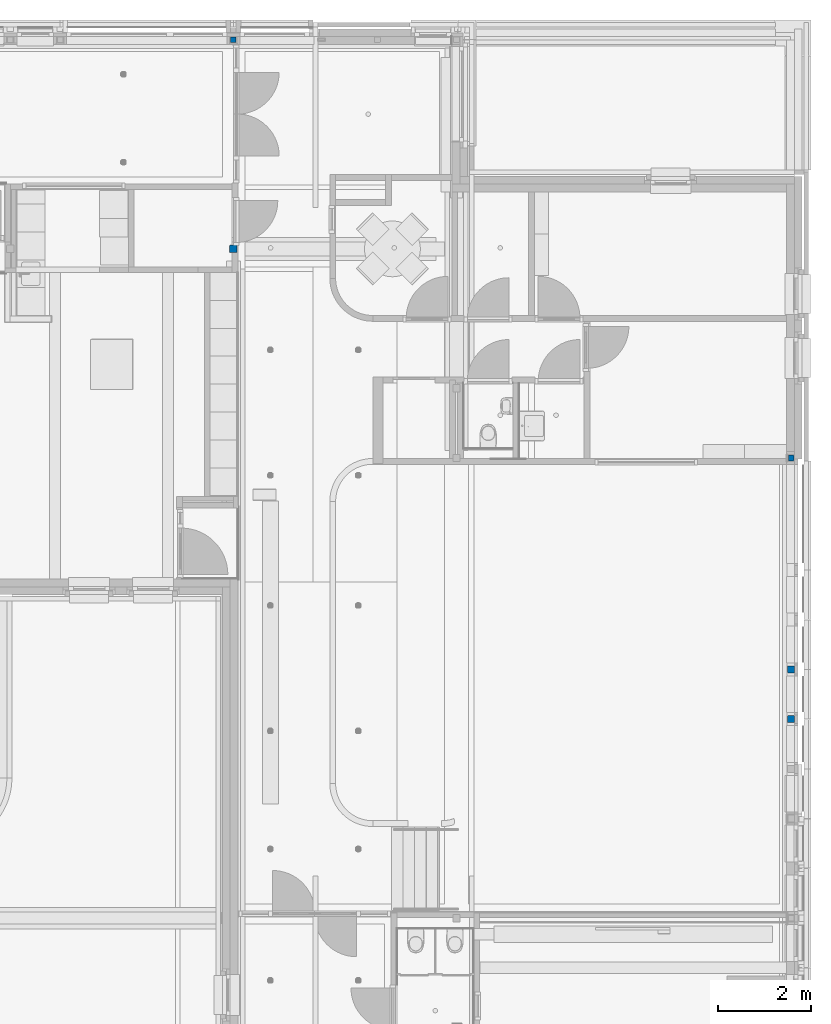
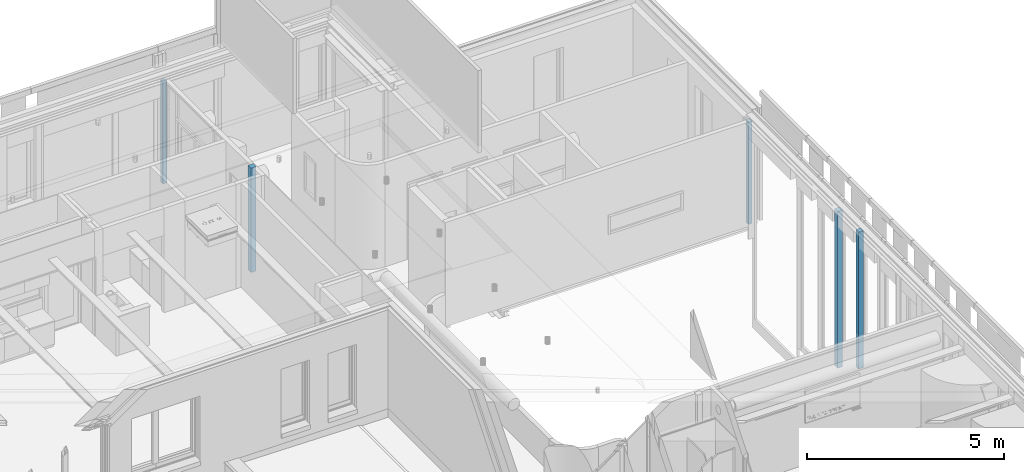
# One storey, part 4 of 128: 6 columns.
"""IFC2X3 building model written with IfcOpenShell, lengths in millimetres."""

import ifcopenshell
import ifcopenshell.guid

model = None  # the IFC model being written
_history = None  # IfcOwnerHistory: only IFC2X3 demands one
_inside = {}  # id of a spatial element -> (the spatial element, [elements in it])
_under = {}  # id of a project, library or spatial element -> (it, [spatial elements below it])
_declared = {}  # id of a project -> (the project, [libraries it declares])
_typed = {}  # id of a type object -> (the type object, [elements of that type])
_made_of = {}  # id of a material, layer set ... -> (it, [elements and type objects made of it])


def new_model(schema):
    """Start an empty IFC model of exactly this schema.

    Asked for "IFC4X3", IfcOpenShell would pick the latest addendum, in which some entities
    have other attributes; the version numbers below select the first issue.
    IFC2X3 requires an IfcOwnerHistory on every rooted entity: one is made here for all.
    """
    global model, _history
    if schema == "IFC4X3":
        model = ifcopenshell.file(schema_version=(4, 3, 0, 0))
    else:
        model = ifcopenshell.file(schema=schema)
    _inside.clear()
    _under.clear()
    _declared.clear()
    _typed.clear()
    _made_of.clear()
    _history = None
    if model.schema == "IFC2X3":
        org = make("IfcOrganization", Name="unknown")
        user = make(
            "IfcPersonAndOrganization",
            ThePerson=make("IfcPerson", FamilyName="unknown"),
            TheOrganization=org,
        )
        app = make(
            "IfcApplication",
            ApplicationDeveloper=org,
            Version="unknown",
            ApplicationFullName="unknown",
            ApplicationIdentifier="unknown",
        )
        _history = make(
            "IfcOwnerHistory",
            OwningUser=user,
            OwningApplication=app,
            ChangeAction="ADDED",
            CreationDate=0,
        )
    return model


def make(cls, **values):
    """One entity of the class cls with the attributes given. An attribute that is None is left unset."""
    return model.create_entity(
        cls, **{name: value for name, value in values.items() if value is not None}
    )


def entity(cls, *values):
    """Any entity or typed value of the class cls, its attributes in the order of the schema. None: left unset."""
    e = model.create_entity(cls)
    for i, value in enumerate(values):
        if value is not None:
            e[i] = value
    return e


def rooted(cls, **values):
    """An entity with a GlobalId (a new one), such as an element, a storey or a relation."""
    return make(cls, GlobalId=ifcopenshell.guid.new(), OwnerHistory=_history, **values)


def si_unit(unit_type, name, prefix=None):
    """IfcSIUnit, for example si_unit("LENGTHUNIT", "METRE", prefix="MILLI")."""
    return make("IfcSIUnit", UnitType=unit_type, Prefix=prefix, Name=name)


def converted_unit(unit_type, name, factor, base, dimensions=None, offset=None):
    """IfcConversionBasedUnit, such as the inch: factor (a typed value) times the base unit."""
    return make(
        "IfcConversionBasedUnit"
        if offset is None
        else "IfcConversionBasedUnitWithOffset",
        ConversionOffset=offset,
        Dimensions=None
        if dimensions is None
        else entity("IfcDimensionalExponents", *dimensions),
        UnitType=unit_type,
        Name=name,
        ConversionFactor=make(
            "IfcMeasureWithUnit", ValueComponent=factor, UnitComponent=base
        ),
    )


def derived_unit(unit_type, elements):
    """IfcDerivedUnit: a product of units, each with its exponent."""
    return make(
        "IfcDerivedUnit",
        Elements=[
            make("IfcDerivedUnitElement", Unit=unit, Exponent=power)
            for unit, power in elements
        ],
        UnitType=unit_type,
    )


def assignment(units):
    """IfcUnitAssignment: the units of a project."""
    return None if units is None else make("IfcUnitAssignment", Units=units)


def point(xyz):
    """IfcCartesianPoint."""
    return None if xyz is None else make("IfcCartesianPoint", Coordinates=xyz)


def direction(xyz):
    """IfcDirection."""
    return None if xyz is None else make("IfcDirection", DirectionRatios=xyz)


def frame(location, z_axis=None, x_axis=None):
    """IfcAxis2Placement3D, a coordinate frame: its origin and axes. An axis left out is left unset."""
    return make(
        "IfcAxis2Placement3D",
        Location=point(location),
        Axis=direction(z_axis),
        RefDirection=direction(x_axis),
    )


def frame_2d(location, x_axis=None):
    """IfcAxis2Placement2D, a coordinate frame in the plane: its origin and x axis."""
    return make(
        "IfcAxis2Placement2D", Location=point(location), RefDirection=direction(x_axis)
    )


def origin():
    """The frame at (0, 0, 0) with its axes left unset."""
    return frame((0.0, 0.0, 0.0))


def place(relative_to, where):
    """IfcLocalPlacement: puts the frame where relative to a parent placement (None: the world)."""
    return make(
        "IfcLocalPlacement", PlacementRelTo=relative_to, RelativePlacement=where
    )


def context(
    kind, dimensions, precision=None, world=None, true_north=None, identifier=None
):
    """IfcGeometricRepresentationContext, for example the 3D "Model" context."""
    return make(
        "IfcGeometricRepresentationContext",
        ContextIdentifier=identifier,
        ContextType=kind,
        CoordinateSpaceDimension=dimensions,
        Precision=precision,
        WorldCoordinateSystem=world,
        TrueNorth=true_north,
    )


def subcontext(parent, identifier, kind, view, scale=None):
    """IfcGeometricRepresentationSubContext, for example "Body" below "Model"."""
    return make(
        "IfcGeometricRepresentationSubContext",
        ContextIdentifier=identifier,
        ContextType=kind,
        ParentContext=parent,
        TargetScale=scale,
        TargetView=view,
    )


def project(units=None, contexts=None):
    """IfcProject with its units and contexts."""
    return rooted(
        "IfcProject",
        Name="project",
        RepresentationContexts=contexts,
        UnitsInContext=assignment(units),
    )


def spatial(cls, under=None, at=None, **own):
    """A site, building, storey or space (cls), placed at a placement, below another one or the project."""
    s = rooted(cls, ObjectPlacement=at, **own)
    if under is not None:
        _under.setdefault(under.id(), (under, []))[1].append(s)
    return s


def polyline(points):
    """IfcPolyline through the points."""
    return make("IfcPolyline", Points=[point(p) for p in points])


def circle_curve(where, radius):
    """IfcCircle in the frame where."""
    return make("IfcCircle", Position=where, Radius=radius)


def parameter(value):
    """IfcParameterValue: where a trimmed curve begins or ends, as a parameter of its basis curve."""
    return model.create_entity("IfcParameterValue", value)


def trimmed(basis, trim1, trim2, sense, master):
    """IfcTrimmedCurve: the piece of a basis curve between two trims."""
    return make(
        "IfcTrimmedCurve",
        BasisCurve=basis,
        Trim1=trim1,
        Trim2=trim2,
        SenseAgreement=sense,
        MasterRepresentation=master,
    )


def segment(curve, same_sense, transition):
    """IfcCompositeCurveSegment."""
    return make(
        "IfcCompositeCurveSegment",
        Transition=transition,
        SameSense=same_sense,
        ParentCurve=curve,
    )


def composite_curve(segments, self_intersect=None):
    """IfcCompositeCurve: segments joined end to end."""
    return make("IfcCompositeCurve", Segments=segments, SelfIntersect=self_intersect)


def outline(outer, holes=None, kind="AREA"):
    """IfcArbitraryClosedProfileDef: a profile drawn as a closed curve; with holes, ...WithVoids."""
    if holes is None:
        return make("IfcArbitraryClosedProfileDef", ProfileType=kind, OuterCurve=outer)
    return make(
        "IfcArbitraryProfileDefWithVoids",
        ProfileType=kind,
        OuterCurve=outer,
        InnerCurves=holes,
    )


def extrude(swept, where, along, depth):
    """IfcExtrudedAreaSolid: the profile swept, set in the frame where, extruded along a direction by depth."""
    return make(
        "IfcExtrudedAreaSolid",
        SweptArea=swept,
        Position=where,
        ExtrudedDirection=direction(along),
        Depth=depth,
    )


def shape(context_of_items, identifier, shape_type, items):
    """IfcShapeRepresentation: the items that make up one representation, for example the "Body"."""
    return make(
        "IfcShapeRepresentation",
        ContextOfItems=context_of_items,
        RepresentationIdentifier=identifier,
        RepresentationType=shape_type,
        Items=items,
    )


def source(mapping_origin, context_of_items, identifier, shape_type, items):
    """IfcRepresentationMap: a shape defined once, which mapped items show again and again."""
    return make(
        "IfcRepresentationMap",
        MappingOrigin=mapping_origin,
        MappedRepresentation=shape(context_of_items, identifier, shape_type, items),
    )


def transform(
    local_origin,
    x_axis=None,
    y_axis=None,
    z_axis=None,
    scale=None,
    scale2=None,
    scale3=None,
    uniform=True,
):
    """IfcCartesianTransformationOperator3D, or its non-uniform kind. x_axis, y_axis, z_axis: its Axis1, 2, 3."""
    if uniform:
        return make(
            "IfcCartesianTransformationOperator3D",
            Axis1=direction(x_axis),
            Axis2=direction(y_axis),
            LocalOrigin=point(local_origin),
            Scale=scale,
            Axis3=direction(z_axis),
        )
    return make(
        "IfcCartesianTransformationOperator3DnonUniform",
        Axis1=direction(x_axis),
        Axis2=direction(y_axis),
        LocalOrigin=point(local_origin),
        Scale=scale,
        Axis3=direction(z_axis),
        Scale2=scale2,
        Scale3=scale3,
    )


def mapped(mapping_source, mapping_target):
    """IfcMappedItem: shows the shape of a source again, moved by a transform."""
    return make(
        "IfcMappedItem", MappingSource=mapping_source, MappingTarget=mapping_target
    )


def material(Name=None, Category=None):
    """IfcMaterial."""
    return make("IfcMaterial", Name=Name, Category=Category)


def material_list(materials):
    """IfcMaterialList."""
    return make("IfcMaterialList", Materials=materials)


def made_of(thing, what):
    """Note that an element or type object is made of a material, layer set ...; save() writes the relation."""
    if what is not None:
        _made_of.setdefault(what.id(), (what, []))[1].append(thing)
    return thing


def type_object(cls, material=None, **own):
    """A type object (cls), such as IfcWallType, which elements share."""
    return made_of(rooted(cls, **own), material)


def type_shapes(of_type, sources):
    """Give a type object the sources (RepresentationMaps) that its elements show as mapped items."""
    of_type.RepresentationMaps = sources


def element(
    cls,
    number,
    at=None,
    inside=None,
    cuts=None,
    type_object=None,
    material=None,
    context=None,
    identifier="Body",
    shape_type=None,
    held_by="IfcProductDefinitionShape",
    body=None,
    shapes=None,
    **own,
):
    """One element of the class cls, such as IfcWall. Its Tag is "e" and its number.

    at: its placement. inside: the storey or other place that contains it. cuts: it is an
    opening in that element (IfcRelVoidsElement). A single representation is given by context,
    identifier, shape_type and body (its items); several are given by shapes. held_by: the class
    of the entity that holds the representations. save() writes the other relations.
    """
    e = rooted(cls, Tag="e%d" % number, ObjectPlacement=at, **own)
    if body is not None:
        shapes = [shape(context, identifier, shape_type, body)]
    if shapes is not None:
        e.Representation = make(held_by, Representations=shapes)
    if inside is not None:
        _inside.setdefault(inside.id(), (inside, []))[1].append(e)
    if cuts is not None:
        rooted(
            "IfcRelVoidsElement", RelatingBuildingElement=cuts, RelatedOpeningElement=e
        )
    if type_object is not None:
        _typed.setdefault(type_object.id(), (type_object, []))[1].append(e)
    return made_of(e, material)


def aggregate(whole, parts):
    """IfcRelAggregates: a whole, such as a stair, and the parts it consists of."""
    return rooted("IfcRelAggregates", RelatingObject=whole, RelatedObjects=parts)


def save(model, path):
    """Write the relations noted so far, then the file.

    IfcRelAggregates (storeys below a building ...), IfcRelContainedInSpatialStructure (elements
    in a storey), IfcRelDefinesByType, IfcRelAssociatesMaterial and IfcRelDeclares: one each for
    every whole, place, type object, material and project.
    """
    for whole, parts in _under.values():
        aggregate(whole, parts)
    for where, things in _inside.values():
        rooted(
            "IfcRelContainedInSpatialStructure",
            RelatedElements=things,
            RelatingStructure=where,
        )
    for kind, things in _typed.values():
        rooted("IfcRelDefinesByType", RelatedObjects=things, RelatingType=kind)
    for what, things in _made_of.values():
        rooted("IfcRelAssociatesMaterial", RelatedObjects=things, RelatingMaterial=what)
    for by, libraries in _declared.values():
        rooted("IfcRelDeclares", RelatingContext=by, RelatedDefinitions=libraries)
    model.write(path)


model = new_model("IFC2X3")

# Units and contexts
model_context = context("Model", 3, precision=0.01, world=origin(), true_north=direction((6.123031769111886e-17, 1.0)))
body_context = subcontext(model_context, "Body", "Model", "MODEL_VIEW")
ifc_project = project(units=[si_unit("LENGTHUNIT", "METRE", prefix="MILLI"), si_unit("AREAUNIT", "SQUARE_METRE"), si_unit("VOLUMEUNIT", "CUBIC_METRE"), converted_unit("PLANEANGLEUNIT", "DEGREE", entity("IfcRatioMeasure", 0.017453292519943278), si_unit("PLANEANGLEUNIT", "RADIAN"), dimensions=[0, 0, 0, 0, 0, 0, 0]), si_unit("MASSUNIT", "GRAM", prefix="KILO"), derived_unit("MASSDENSITYUNIT", [(si_unit("MASSUNIT", "GRAM", prefix="KILO"), 1), (si_unit("LENGTHUNIT", "METRE"), -3)]), derived_unit("IONCONCENTRATIONUNIT", [(si_unit("MASSUNIT", "GRAM", prefix="KILO"), 1), (si_unit("LENGTHUNIT", "METRE"), -3)]), derived_unit("MOMENTOFINERTIAUNIT", [(si_unit("LENGTHUNIT", "METRE"), 4)]), si_unit("TIMEUNIT", "SECOND"), si_unit("FREQUENCYUNIT", "HERTZ"), si_unit("THERMODYNAMICTEMPERATUREUNIT", "DEGREE_CELSIUS"), derived_unit("THERMALTRANSMITTANCEUNIT", [(si_unit("MASSUNIT", "GRAM", prefix="KILO"), 1), (si_unit("THERMODYNAMICTEMPERATUREUNIT", "KELVIN"), -1), (si_unit("TIMEUNIT", "SECOND"), -3)]), derived_unit("THERMALCONDUCTANCEUNIT", [(si_unit("MASSUNIT", "GRAM", prefix="KILO"), 1), (si_unit("THERMODYNAMICTEMPERATUREUNIT", "KELVIN"), -1), (si_unit("TIMEUNIT", "SECOND"), -3), (si_unit("LENGTHUNIT", "METRE"), 1)]), derived_unit("VOLUMETRICFLOWRATEUNIT", [(si_unit("LENGTHUNIT", "METRE"), 3), (si_unit("TIMEUNIT", "SECOND"), -1)]), derived_unit("MASSFLOWRATEUNIT", [(si_unit("MASSUNIT", "GRAM", prefix="KILO"), 1), (si_unit("TIMEUNIT", "SECOND"), -1)]), derived_unit("ROTATIONALFREQUENCYUNIT", [(si_unit("TIMEUNIT", "SECOND"), -1)]), si_unit("ELECTRICCURRENTUNIT", "AMPERE"), si_unit("ELECTRICVOLTAGEUNIT", "VOLT"), si_unit("POWERUNIT", "WATT"), si_unit("FORCEUNIT", "NEWTON", prefix="KILO"), si_unit("ILLUMINANCEUNIT", "LUX"), si_unit("LUMINOUSFLUXUNIT", "LUMEN"), si_unit("LUMINOUSINTENSITYUNIT", "CANDELA"), derived_unit("USERDEFINED", [(si_unit("MASSUNIT", "GRAM", prefix="KILO"), -1), (si_unit("LENGTHUNIT", "METRE"), -2), (si_unit("TIMEUNIT", "SECOND"), 3), (si_unit("LUMINOUSFLUXUNIT", "LUMEN"), 1)]), derived_unit("USERDEFINED", [(si_unit("MASSUNIT", "GRAM", prefix="KILO"), 1), (si_unit("TIMEUNIT", "SECOND"), -3), (si_unit("LENGTHUNIT", "METRE"), 3), (si_unit("ELECTRICCURRENTUNIT", "AMPERE"), -2)]), derived_unit("SOUNDPOWERUNIT", [(si_unit("MASSUNIT", "GRAM", prefix="KILO"), 1), (si_unit("TIMEUNIT", "SECOND"), -3), (si_unit("LENGTHUNIT", "METRE"), 2)]), derived_unit("SOUNDPRESSUREUNIT", [(si_unit("MASSUNIT", "GRAM", prefix="KILO"), 1), (si_unit("LENGTHUNIT", "METRE"), -1), (si_unit("TIMEUNIT", "SECOND"), -2)]), derived_unit("LINEARVELOCITYUNIT", [(si_unit("LENGTHUNIT", "METRE"), 1), (si_unit("TIMEUNIT", "SECOND"), -1)]), si_unit("PRESSUREUNIT", "PASCAL"), derived_unit("USERDEFINED", [(si_unit("MASSUNIT", "GRAM", prefix="KILO"), 1), (si_unit("LENGTHUNIT", "METRE"), -2), (si_unit("TIMEUNIT", "SECOND"), -2)]), derived_unit("LINEARFORCEUNIT", [(si_unit("MASSUNIT", "GRAM", prefix="KILO"), 1), (si_unit("TIMEUNIT", "SECOND"), -2)]), derived_unit("PLANARFORCEUNIT", [(si_unit("MASSUNIT", "GRAM", prefix="KILO"), 1), (si_unit("LENGTHUNIT", "METRE"), -1), (si_unit("TIMEUNIT", "SECOND"), -2)]), derived_unit("SPECIFICHEATCAPACITYUNIT", [(si_unit("THERMODYNAMICTEMPERATUREUNIT", "KELVIN"), -1), (si_unit("LENGTHUNIT", "METRE"), 2), (si_unit("TIMEUNIT", "SECOND"), -2)]), derived_unit("HEATINGVALUEUNIT", [(si_unit("LENGTHUNIT", "METRE"), 2), (si_unit("TIMEUNIT", "SECOND"), -2)]), derived_unit("VAPORPERMEABILITYUNIT", [(si_unit("LENGTHUNIT", "METRE"), -1), (si_unit("TIMEUNIT", "SECOND"), 1)]), derived_unit("DYNAMICVISCOSITYUNIT", [(si_unit("MASSUNIT", "GRAM", prefix="KILO"), 1), (si_unit("TIMEUNIT", "SECOND"), -1), (si_unit("LENGTHUNIT", "METRE"), -1)]), derived_unit("THERMALEXPANSIONCOEFFICIENTUNIT", [(si_unit("THERMODYNAMICTEMPERATUREUNIT", "KELVIN"), -1)]), derived_unit("MODULUSOFELASTICITYUNIT", [(si_unit("MASSUNIT", "GRAM", prefix="KILO"), 1), (si_unit("LENGTHUNIT", "METRE"), -1), (si_unit("TIMEUNIT", "SECOND"), -2)]), derived_unit("ISOTHERMALMOISTURECAPACITYUNIT", [(si_unit("LENGTHUNIT", "METRE"), 3), (si_unit("MASSUNIT", "GRAM", prefix="KILO"), -1)]), derived_unit("MOISTUREDIFFUSIVITYUNIT", [(si_unit("TIMEUNIT", "SECOND"), -1), (si_unit("LENGTHUNIT", "METRE"), 2)])], contexts=[model_context])

# Site, building, storey
site_placement = place(None, frame((0.0, 300.0, 0.0)))
site = spatial("IfcSite", under=ifc_project, at=site_placement, Name="<Kadastrale nummers>", CompositionType="ELEMENT")
building_placement = place(site_placement, origin())
building = spatial("IfcBuilding", under=site, at=building_placement, CompositionType="ELEMENT")
storey_placement = place(building_placement, frame((0.0, 0.0, 3560.0000331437)))
storey = spatial("IfcBuildingStorey", under=building, at=storey_placement, Name="01 eerste verdieping", CompositionType="ELEMENT", Elevation=3560.0000331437)

# Columns
ifc_material_1 = material(Name="f2_beton")
ifc_material_2 = material(Name="h2_staal")
ifc_material_list = material_list([ifc_material_1, ifc_material_2])
column_type_1 = type_object("IfcColumnType", Name="NLRS_28_SCO_TLB_kolom koker betongevuld_gen_ASN:kolom betongevuld K120x120x5", PredefinedType="COLUMN", material=ifc_material_list)
shared_shape_1 = source(origin(), body_context, "Body", "SweptSolid", [
    extrude(outline(composite_curve([segment(polyline([(-50.0, -55.0), (50.0, -55.0)]), True, "CONTINUOUS"), segment(trimmed(circle_curve(frame_2d((50.0, -50.0), x_axis=(-1.0, 0.0)), 4.999999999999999), [parameter(90.00000000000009)], [parameter(179.9999999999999)], True, "PARAMETER"), True, "CONTINUOUS"), segment(polyline([(55.0, -50.0), (55.0, 50.0)]), True, "CONTINUOUS"), segment(trimmed(circle_curve(frame_2d((50.0, 50.0), x_axis=(-1.0, 0.0)), 4.999999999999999), [parameter(180.0000000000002)], [parameter(269.9999999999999)], True, "PARAMETER"), True, "CONTINUOUS"), segment(polyline([(50.0, 55.0), (-50.0, 55.0)]), True, "CONTINUOUS"), segment(trimmed(circle_curve(frame_2d((-50.0, 50.0), x_axis=(-1.0, 0.0)), 4.999999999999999), [parameter(269.99999999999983)], [parameter(359.9999999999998)], True, "PARAMETER"), True, "CONTINUOUS"), segment(polyline([(-55.0, 50.0), (-55.0, -50.0)]), True, "CONTINUOUS"), segment(trimmed(circle_curve(frame_2d((-50.0, -50.0), x_axis=(-1.0, 0.0)), 4.999999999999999), [parameter(0.0)], [parameter(89.99999999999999)], True, "PARAMETER"), True, "CONTINUOUS")], self_intersect=False)), frame((0.0, 0.0, 3650.0000350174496), z_axis=(0.0, 0.0, 1.0), x_axis=(-1.0, 0.0, 0.0)), (0.0, 0.0, 1.0), 3180.00002051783),
    extrude(outline(composite_curve([segment(trimmed(circle_curve(frame_2d((51.0, 51.0), x_axis=(1.0, 0.0)), 9.0), [parameter(359.9999999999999)], [parameter(89.99999999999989)], True, "PARAMETER"), True, "CONTINUOUS"), segment(polyline([(51.0, 60.0), (-51.0, 60.0)]), True, "CONTINUOUS"), segment(trimmed(circle_curve(frame_2d((-51.0, 51.0), x_axis=(1.0, 0.0)), 9.0), [parameter(90.00000000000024)], [parameter(180.0000000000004)], True, "PARAMETER"), True, "CONTINUOUS"), segment(polyline([(-60.0, 51.0), (-60.0, -51.0)]), True, "CONTINUOUS"), segment(trimmed(circle_curve(frame_2d((-51.0, -51.0), x_axis=(1.0, 0.0)), 9.0), [parameter(179.99999999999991)], [parameter(269.9999999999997)], True, "PARAMETER"), True, "CONTINUOUS"), segment(polyline([(-51.0, -60.0), (51.0, -60.0)]), True, "CONTINUOUS"), segment(trimmed(circle_curve(frame_2d((51.0, -51.0), x_axis=(1.0, 0.0)), 9.0), [parameter(270.00000000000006)], [parameter(2.544443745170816e-13)], True, "PARAMETER"), True, "CONTINUOUS"), segment(polyline([(60.0, -51.0), (60.0, 51.0)]), True, "CONTINUOUS")], self_intersect=False), holes=[composite_curve([segment(polyline([(-51.0, 55.0), (51.0, 55.0)]), True, "CONTINUOUS"), segment(trimmed(circle_curve(frame_2d((51.0, 51.0), x_axis=(1.0, 0.0)), 4.0), [parameter(359.9999999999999)], [parameter(90.00000000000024)], True, "PARAMETER"), False, "CONTINUOUS"), segment(polyline([(55.0, 51.0), (55.0, -51.0)]), True, "CONTINUOUS"), segment(trimmed(circle_curve(frame_2d((51.0, -51.0), x_axis=(1.0, 0.0)), 4.0), [parameter(269.9999999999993)], [parameter(359.9999999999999)], True, "PARAMETER"), False, "CONTINUOUS"), segment(polyline([(51.0, -55.0), (-51.0, -55.0)]), True, "CONTINUOUS"), segment(trimmed(circle_curve(frame_2d((-51.0, -51.0), x_axis=(1.0, 0.0)), 4.0), [parameter(179.99999999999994)], [parameter(269.99999999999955)], True, "PARAMETER"), False, "CONTINUOUS"), segment(polyline([(-55.0, -51.0), (-55.0, 51.0)]), True, "CONTINUOUS"), segment(trimmed(circle_curve(frame_2d((-51.0, 51.0), x_axis=(1.0, 0.0)), 4.0), [parameter(89.99999999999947)], [parameter(179.9999999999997)], True, "PARAMETER"), False, "CONTINUOUS")], self_intersect=False)]), frame((0.0, 0.0, 3650.0000350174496), z_axis=(0.0, 0.0, 1.0), x_axis=(-1.0, 0.0, 0.0)), (0.0, 0.0, 1.0), 3180.00002051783),
])
type_shapes(column_type_1, [shared_shape_1])
for number, where, z_axis, x_axis, name in (
    (1, (48600.0, 40799.99947471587, -3560.0000331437), (0.0, 0.0, 1.0), (0.0, -1.0, 0.0), "NLRS_28_SCO_TLB_kolom koker betongevuld_gen_ASN:kolom betongevuld K120x120x5"),
    (2, (36600.0, 49800.0, -3560.0000331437), (0.0, 0.0, 1.0), (0.0, -1.0, 0.0), "NLRS_28_SCO_TLB_kolom koker betongevuld_gen_ASN:kolom betongevuld K120x120x5"),
):
    element("IfcColumn", number, at=place(storey_placement, frame(where, z_axis=z_axis, x_axis=x_axis)), inside=storey, type_object=column_type_1, material=ifc_material_list, Name=name, ObjectType="NLRS_28_SCO_TLB_kolom koker betongevuld_gen_ASN:kolom betongevuld K120x120x5", context=body_context, shape_type="MappedRepresentation", body=[
        mapped(shared_shape_1, transform((0.0, 0.0, 0.0), scale=1.0)),
    ])
column_type_2 = type_object("IfcColumnType", Name="NLRS_28_SCO_TLB_kolom koker betongevuld_gen_ASN:kolom betongevuld K150x150x6.3", PredefinedType="COLUMN", material=ifc_material_list)
shared_shape_2 = source(origin(), body_context, "Body", "SweptSolid", [
    extrude(outline(composite_curve([segment(polyline([(-63.70000000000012, -68.69999999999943), (63.699999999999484, -68.69999999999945)]), True, "CONTINUOUS"), segment(trimmed(circle_curve(frame_2d((63.69999999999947, -63.69999999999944), x_axis=(-1.0, 0.0)), 4.999999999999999), [parameter(90.00000000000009)], [parameter(179.9999999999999)], True, "PARAMETER"), True, "CONTINUOUS"), segment(polyline([(68.69999999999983, -63.69999999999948), (68.7000000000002, 63.69999999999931)]), True, "CONTINUOUS"), segment(trimmed(circle_curve(frame_2d((63.70000000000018, 63.69999999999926), x_axis=(-1.0, 0.0)), 4.999999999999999), [parameter(180.0000000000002)], [parameter(269.9999999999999)], True, "PARAMETER"), True, "CONTINUOUS"), segment(polyline([(63.70000000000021, 68.69999999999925), (-63.6999999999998, 68.69999999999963)]), True, "CONTINUOUS"), segment(trimmed(circle_curve(frame_2d((-63.69999999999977, 63.699999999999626), x_axis=(-1.0, 0.0)), 4.999999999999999), [parameter(270.0)], [parameter(359.9999999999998)], True, "PARAMETER"), True, "CONTINUOUS"), segment(polyline([(-68.69999999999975, 63.69999999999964), (-68.70000000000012, -63.69999999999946)]), True, "CONTINUOUS"), segment(trimmed(circle_curve(frame_2d((-63.70000000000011, -63.69999999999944), x_axis=(-1.0, 0.0)), 4.999999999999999), [parameter(0.0)], [parameter(90.00000000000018)], True, "PARAMETER"), True, "CONTINUOUS")], self_intersect=False)), frame((0.0, 0.0, 3650.0000350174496), z_axis=(0.0, 0.0, 1.0), x_axis=(-1.0, 0.0, 0.0)), (0.0, 0.0, 1.0), 3180.00002051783),
    extrude(outline(composite_curve([segment(trimmed(circle_curve(frame_2d((62.0, 62.0), x_axis=(1.0, 0.0)), 13.000000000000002), [parameter(359.9999999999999)], [parameter(89.99999999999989)], True, "PARAMETER"), True, "CONTINUOUS"), segment(polyline([(62.0, 75.0), (-62.0, 75.0)]), True, "CONTINUOUS"), segment(trimmed(circle_curve(frame_2d((-62.0, 62.0), x_axis=(1.0, 0.0)), 13.000000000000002), [parameter(90.00000000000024)], [parameter(180.0000000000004)], True, "PARAMETER"), True, "CONTINUOUS"), segment(polyline([(-75.0, 62.0), (-75.0, -62.0)]), True, "CONTINUOUS"), segment(trimmed(circle_curve(frame_2d((-62.0, -62.0), x_axis=(1.0, 0.0)), 13.000000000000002), [parameter(180.0)], [parameter(269.9999999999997)], True, "PARAMETER"), True, "CONTINUOUS"), segment(polyline([(-62.0, -75.0), (62.0, -75.0)]), True, "CONTINUOUS"), segment(trimmed(circle_curve(frame_2d((62.0, -62.0), x_axis=(1.0, 0.0)), 13.000000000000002), [parameter(270.00000000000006)], [parameter(3.053332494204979e-13)], True, "PARAMETER"), True, "CONTINUOUS"), segment(polyline([(75.0, -62.0), (75.0, 62.0)]), True, "CONTINUOUS")], self_intersect=False), holes=[composite_curve([segment(polyline([(-62.0, 68.69999999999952), (62.0, 68.69999999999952)]), True, "CONTINUOUS"), segment(trimmed(circle_curve(frame_2d((62.0, 62.0), x_axis=(1.0, 0.0)), 6.700000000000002), [parameter(359.99999999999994)], [parameter(90.00000000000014)], True, "PARAMETER"), False, "CONTINUOUS"), segment(polyline([(68.69999999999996, 62.0), (68.69999999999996, -62.0)]), True, "CONTINUOUS"), segment(trimmed(circle_curve(frame_2d((62.0, -62.0), x_axis=(1.0, 0.0)), 6.700000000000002), [parameter(269.9999999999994)], [parameter(359.9999999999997)], True, "PARAMETER"), False, "CONTINUOUS"), segment(polyline([(62.0, -68.69999999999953), (-62.0, -68.69999999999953)]), True, "CONTINUOUS"), segment(trimmed(circle_curve(frame_2d((-62.0, -62.0), x_axis=(1.0, 0.0)), 6.700000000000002), [parameter(180.00000000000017)], [parameter(269.9999999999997)], True, "PARAMETER"), False, "CONTINUOUS"), segment(polyline([(-68.69999999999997, -62.0), (-68.69999999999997, 62.0)]), True, "CONTINUOUS"), segment(trimmed(circle_curve(frame_2d((-62.0, 62.0), x_axis=(1.0, 0.0)), 6.700000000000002), [parameter(89.99999999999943)], [parameter(179.99999999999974)], True, "PARAMETER"), False, "CONTINUOUS")], self_intersect=False)]), frame((0.0, 0.0, 3650.0000350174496), z_axis=(0.0, 0.0, 1.0), x_axis=(-1.0, 0.0, 0.0)), (0.0, 0.0, 1.0), 3180.00002051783),
])
type_shapes(column_type_2, [shared_shape_2])
column_1_placement = place(storey_placement, frame((48600.0, 35180.0, -3560.0000331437), z_axis=(0.0, 0.0, 1.0), x_axis=(0.0, -1.0, 0.0)))
element("IfcColumn", 3, at=column_1_placement, inside=storey, type_object=column_type_2, material=ifc_material_list, Name="NLRS_28_SCO_TLB_kolom koker betongevuld_gen_ASN:kolom betongevuld K150x150x6.3", ObjectType="NLRS_28_SCO_TLB_kolom koker betongevuld_gen_ASN:kolom betongevuld K150x150x6.3", context=body_context, shape_type="MappedRepresentation", body=[
    mapped(shared_shape_2, transform((0.0, 0.0, 0.0), scale=1.0)),
])
column_type_3 = type_object("IfcColumnType", Name="NLRS_28_SCO_TLB_kolom koker betongevuld_gen_ASN:kolom betongevuld K150x150x6.3", PredefinedType="COLUMN", material=ifc_material_list)
shared_shape_3 = source(origin(), body_context, "Body", "SweptSolid", [
    extrude(outline(composite_curve([segment(polyline([(-63.70000000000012, -68.69999999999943), (63.699999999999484, -68.69999999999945)]), True, "CONTINUOUS"), segment(trimmed(circle_curve(frame_2d((63.69999999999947, -63.69999999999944), x_axis=(-1.0, 0.0)), 4.999999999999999), [parameter(90.00000000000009)], [parameter(179.9999999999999)], True, "PARAMETER"), True, "CONTINUOUS"), segment(polyline([(68.69999999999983, -63.69999999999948), (68.7000000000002, 63.69999999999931)]), True, "CONTINUOUS"), segment(trimmed(circle_curve(frame_2d((63.70000000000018, 63.69999999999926), x_axis=(-1.0, 0.0)), 4.999999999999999), [parameter(180.0000000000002)], [parameter(269.9999999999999)], True, "PARAMETER"), True, "CONTINUOUS"), segment(polyline([(63.70000000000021, 68.69999999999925), (-63.6999999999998, 68.69999999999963)]), True, "CONTINUOUS"), segment(trimmed(circle_curve(frame_2d((-63.69999999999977, 63.699999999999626), x_axis=(-1.0, 0.0)), 4.999999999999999), [parameter(270.0)], [parameter(359.9999999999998)], True, "PARAMETER"), True, "CONTINUOUS"), segment(polyline([(-68.69999999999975, 63.69999999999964), (-68.70000000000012, -63.69999999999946)]), True, "CONTINUOUS"), segment(trimmed(circle_curve(frame_2d((-63.70000000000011, -63.69999999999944), x_axis=(-1.0, 0.0)), 4.999999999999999), [parameter(0.0)], [parameter(90.00000000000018)], True, "PARAMETER"), True, "CONTINUOUS")], self_intersect=False)), frame((0.0, 0.0, 1960.0000350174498), z_axis=(0.0, 0.0, 1.0), x_axis=(-1.0, 0.0, 0.0)), (0.0, 0.0, 1.0), 4870.00002051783),
    extrude(outline(composite_curve([segment(trimmed(circle_curve(frame_2d((62.0, 62.0), x_axis=(1.0, 0.0)), 13.000000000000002), [parameter(359.9999999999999)], [parameter(89.99999999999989)], True, "PARAMETER"), True, "CONTINUOUS"), segment(polyline([(62.0, 75.0), (-62.0, 75.0)]), True, "CONTINUOUS"), segment(trimmed(circle_curve(frame_2d((-62.0, 62.0), x_axis=(1.0, 0.0)), 13.000000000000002), [parameter(90.00000000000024)], [parameter(180.0000000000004)], True, "PARAMETER"), True, "CONTINUOUS"), segment(polyline([(-75.0, 62.0), (-75.0, -62.0)]), True, "CONTINUOUS"), segment(trimmed(circle_curve(frame_2d((-62.0, -62.0), x_axis=(1.0, 0.0)), 13.000000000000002), [parameter(180.0)], [parameter(269.9999999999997)], True, "PARAMETER"), True, "CONTINUOUS"), segment(polyline([(-62.0, -75.0), (62.0, -75.0)]), True, "CONTINUOUS"), segment(trimmed(circle_curve(frame_2d((62.0, -62.0), x_axis=(1.0, 0.0)), 13.000000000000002), [parameter(270.00000000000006)], [parameter(3.053332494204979e-13)], True, "PARAMETER"), True, "CONTINUOUS"), segment(polyline([(75.0, -62.0), (75.0, 62.0)]), True, "CONTINUOUS")], self_intersect=False), holes=[composite_curve([segment(polyline([(-62.0, 68.69999999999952), (62.0, 68.69999999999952)]), True, "CONTINUOUS"), segment(trimmed(circle_curve(frame_2d((62.0, 62.0), x_axis=(1.0, 0.0)), 6.700000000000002), [parameter(359.99999999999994)], [parameter(90.00000000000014)], True, "PARAMETER"), False, "CONTINUOUS"), segment(polyline([(68.69999999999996, 62.0), (68.69999999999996, -62.0)]), True, "CONTINUOUS"), segment(trimmed(circle_curve(frame_2d((62.0, -62.0), x_axis=(1.0, 0.0)), 6.700000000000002), [parameter(269.9999999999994)], [parameter(359.9999999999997)], True, "PARAMETER"), False, "CONTINUOUS"), segment(polyline([(62.0, -68.69999999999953), (-62.0, -68.69999999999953)]), True, "CONTINUOUS"), segment(trimmed(circle_curve(frame_2d((-62.0, -62.0), x_axis=(1.0, 0.0)), 6.700000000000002), [parameter(180.00000000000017)], [parameter(269.9999999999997)], True, "PARAMETER"), False, "CONTINUOUS"), segment(polyline([(-68.69999999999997, -62.0), (-68.69999999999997, 62.0)]), True, "CONTINUOUS"), segment(trimmed(circle_curve(frame_2d((-62.0, 62.0), x_axis=(1.0, 0.0)), 6.700000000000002), [parameter(89.99999999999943)], [parameter(179.99999999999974)], True, "PARAMETER"), False, "CONTINUOUS")], self_intersect=False)]), frame((0.0, 0.0, 1960.0000350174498), z_axis=(0.0, 0.0, 1.0), x_axis=(-1.0, 0.0, 0.0)), (0.0, 0.0, 1.0), 4870.00002051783),
])
type_shapes(column_type_3, [shared_shape_3])
column_2_placement = place(storey_placement, frame((48600.0, 36250.0, -3560.0000331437), z_axis=(0.0, 0.0, 1.0), x_axis=(0.0, -1.0, 0.0)))
element("IfcColumn", 4, at=column_2_placement, inside=storey, type_object=column_type_3, material=ifc_material_list, Name="NLRS_28_SCO_TLB_kolom koker betongevuld_gen_ASN:kolom betongevuld K150x150x6.3", ObjectType="NLRS_28_SCO_TLB_kolom koker betongevuld_gen_ASN:kolom betongevuld K150x150x6.3", context=body_context, shape_type="MappedRepresentation", body=[
    mapped(shared_shape_3, transform((0.0, 0.0, 0.0), scale=1.0)),
])
column_type_4 = type_object("IfcColumnType", Name="NLRS_28_SCO_TLB_kolom koker betongevuld_gen_ASN:kolom betongevuld K160x160x6.3", PredefinedType="COLUMN", material=ifc_material_list)
shared_shape_4 = source(origin(), body_context, "Body", "SweptSolid", [
    extrude(outline(composite_curve([segment(polyline([(-68.70000000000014, -73.69999999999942), (68.6999999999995, -73.69999999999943)]), True, "CONTINUOUS"), segment(trimmed(circle_curve(frame_2d((68.69999999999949, -68.69999999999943), x_axis=(-1.0, 0.0)), 4.999999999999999), [parameter(90.00000000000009)], [parameter(179.9999999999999)], True, "PARAMETER"), True, "CONTINUOUS"), segment(polyline([(73.69999999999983, -68.69999999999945), (73.7000000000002, 68.69999999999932)]), True, "CONTINUOUS"), segment(trimmed(circle_curve(frame_2d((68.70000000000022, 68.69999999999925), x_axis=(-1.0, 0.0)), 4.999999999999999), [parameter(180.0000000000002)], [parameter(269.9999999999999)], True, "PARAMETER"), True, "CONTINUOUS"), segment(polyline([(68.70000000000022, 73.69999999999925), (-68.69999999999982, 73.69999999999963)]), True, "CONTINUOUS"), segment(trimmed(circle_curve(frame_2d((-68.69999999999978, 68.69999999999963), x_axis=(-1.0, 0.0)), 4.999999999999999), [parameter(269.9999999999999)], [parameter(0.0)], True, "PARAMETER"), True, "CONTINUOUS"), segment(polyline([(-73.69999999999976, 68.69999999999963), (-73.70000000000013, -68.69999999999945)]), True, "CONTINUOUS"), segment(trimmed(circle_curve(frame_2d((-68.70000000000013, -68.69999999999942), x_axis=(-1.0, 0.0)), 4.999999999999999), [parameter(0.0)], [parameter(90.00000000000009)], True, "PARAMETER"), True, "CONTINUOUS")], self_intersect=False)), frame((0.0, 0.0, 3650.0000350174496), z_axis=(0.0, 0.0, 1.0), x_axis=(-1.0, 0.0, 0.0)), (0.0, 0.0, 1.0), 3240.000000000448),
    extrude(outline(composite_curve([segment(trimmed(circle_curve(frame_2d((67.0, 67.0), x_axis=(1.0, 0.0)), 13.000000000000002), [parameter(359.9999999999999)], [parameter(89.99999999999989)], True, "PARAMETER"), True, "CONTINUOUS"), segment(polyline([(67.0, 80.0), (-67.0, 80.0)]), True, "CONTINUOUS"), segment(trimmed(circle_curve(frame_2d((-67.0, 67.0), x_axis=(1.0, 0.0)), 13.000000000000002), [parameter(90.00000000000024)], [parameter(180.0000000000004)], True, "PARAMETER"), True, "CONTINUOUS"), segment(polyline([(-80.0, 67.0), (-80.0, -67.0)]), True, "CONTINUOUS"), segment(trimmed(circle_curve(frame_2d((-67.0, -67.0), x_axis=(1.0, 0.0)), 13.000000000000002), [parameter(179.99999999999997)], [parameter(269.9999999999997)], True, "PARAMETER"), True, "CONTINUOUS"), segment(polyline([(-67.0, -80.0), (67.0, -80.0)]), True, "CONTINUOUS"), segment(trimmed(circle_curve(frame_2d((67.0, -67.0), x_axis=(1.0, 0.0)), 13.000000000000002), [parameter(270.00000000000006)], [parameter(3.053332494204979e-13)], True, "PARAMETER"), True, "CONTINUOUS"), segment(polyline([(80.0, -67.0), (80.0, 67.0)]), True, "CONTINUOUS")], self_intersect=False), holes=[composite_curve([segment(polyline([(-67.0, 73.69999999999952), (67.0, 73.69999999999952)]), True, "CONTINUOUS"), segment(trimmed(circle_curve(frame_2d((67.0, 67.0), x_axis=(1.0, 0.0)), 6.700000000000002), [parameter(359.99999999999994)], [parameter(90.00000000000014)], True, "PARAMETER"), False, "CONTINUOUS"), segment(polyline([(73.69999999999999, 67.0), (73.69999999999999, -67.0)]), True, "CONTINUOUS"), segment(trimmed(circle_curve(frame_2d((67.0, -67.0), x_axis=(1.0, 0.0)), 6.700000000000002), [parameter(269.9999999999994)], [parameter(359.99999999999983)], True, "PARAMETER"), False, "CONTINUOUS"), segment(polyline([(67.0, -73.69999999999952), (-67.0, -73.69999999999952)]), True, "CONTINUOUS"), segment(trimmed(circle_curve(frame_2d((-67.0, -67.0), x_axis=(1.0, 0.0)), 6.700000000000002), [parameter(180.0000000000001)], [parameter(269.9999999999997)], True, "PARAMETER"), False, "CONTINUOUS"), segment(polyline([(-73.69999999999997, -67.0), (-73.69999999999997, 67.0)]), True, "CONTINUOUS"), segment(trimmed(circle_curve(frame_2d((-67.0, 67.0), x_axis=(1.0, 0.0)), 6.700000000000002), [parameter(89.99999999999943)], [parameter(179.99999999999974)], True, "PARAMETER"), False, "CONTINUOUS")], self_intersect=False)]), frame((0.0, 0.0, 3650.0000350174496), z_axis=(0.0, 0.0, 1.0), x_axis=(-1.0, 0.0, 0.0)), (0.0, 0.0, 1.0), 3240.000000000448),
])
type_shapes(column_type_4, [shared_shape_4])
column_3_placement = place(storey_placement, frame((36600.0, 45300.0, -3560.0000331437), z_axis=(0.0, 0.0, 1.0), x_axis=(0.0, -1.0, 0.0)))
element("IfcColumn", 5, at=column_3_placement, inside=storey, type_object=column_type_4, material=ifc_material_list, Name="NLRS_28_SCO_TLB_kolom koker betongevuld_gen_ASN:kolom betongevuld K160x160x6.3", ObjectType="NLRS_28_SCO_TLB_kolom koker betongevuld_gen_ASN:kolom betongevuld K160x160x6.3", context=body_context, shape_type="MappedRepresentation", body=[
    mapped(shared_shape_4, transform((0.0, 0.0, 0.0), scale=1.0)),
])
column_type_5 = type_object("IfcColumnType", Name="NLRS_28_SCO_TLB_kolom koker betongevuld_gen_ASN:kolom betongevuld K150x150x6.3", PredefinedType="COLUMN", material=ifc_material_list)
shared_shape_5 = source(origin(), body_context, "Body", "SweptSolid", [
    extrude(outline(composite_curve([segment(polyline([(-63.70000000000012, -68.69999999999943), (63.699999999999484, -68.69999999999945)]), True, "CONTINUOUS"), segment(trimmed(circle_curve(frame_2d((63.69999999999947, -63.69999999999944), x_axis=(-1.0, 0.0)), 4.999999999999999), [parameter(90.00000000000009)], [parameter(179.9999999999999)], True, "PARAMETER"), True, "CONTINUOUS"), segment(polyline([(68.69999999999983, -63.69999999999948), (68.7000000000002, 63.69999999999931)]), True, "CONTINUOUS"), segment(trimmed(circle_curve(frame_2d((63.70000000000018, 63.69999999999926), x_axis=(-1.0, 0.0)), 4.999999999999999), [parameter(180.0000000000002)], [parameter(269.9999999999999)], True, "PARAMETER"), True, "CONTINUOUS"), segment(polyline([(63.70000000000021, 68.69999999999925), (-63.6999999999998, 68.69999999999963)]), True, "CONTINUOUS"), segment(trimmed(circle_curve(frame_2d((-63.69999999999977, 63.699999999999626), x_axis=(-1.0, 0.0)), 4.999999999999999), [parameter(270.0)], [parameter(359.9999999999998)], True, "PARAMETER"), True, "CONTINUOUS"), segment(polyline([(-68.69999999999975, 63.69999999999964), (-68.70000000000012, -63.69999999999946)]), True, "CONTINUOUS"), segment(trimmed(circle_curve(frame_2d((-63.70000000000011, -63.69999999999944), x_axis=(-1.0, 0.0)), 4.999999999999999), [parameter(0.0)], [parameter(90.00000000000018)], True, "PARAMETER"), True, "CONTINUOUS")], self_intersect=False)), frame((0.0, 0.0, 2585.0000350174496), z_axis=(0.0, 0.0, 1.0), x_axis=(-1.0, 0.0, 0.0)), (0.0, 0.0, 1.0), 4245.00002051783),
    extrude(outline(composite_curve([segment(trimmed(circle_curve(frame_2d((62.0, 62.0), x_axis=(1.0, 0.0)), 13.000000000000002), [parameter(359.9999999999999)], [parameter(89.99999999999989)], True, "PARAMETER"), True, "CONTINUOUS"), segment(polyline([(62.0, 75.0), (-62.0, 75.0)]), True, "CONTINUOUS"), segment(trimmed(circle_curve(frame_2d((-62.0, 62.0), x_axis=(1.0, 0.0)), 13.000000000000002), [parameter(90.00000000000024)], [parameter(180.0000000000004)], True, "PARAMETER"), True, "CONTINUOUS"), segment(polyline([(-75.0, 62.0), (-75.0, -62.0)]), True, "CONTINUOUS"), segment(trimmed(circle_curve(frame_2d((-62.0, -62.0), x_axis=(1.0, 0.0)), 13.000000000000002), [parameter(180.0)], [parameter(269.9999999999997)], True, "PARAMETER"), True, "CONTINUOUS"), segment(polyline([(-62.0, -75.0), (62.0, -75.0)]), True, "CONTINUOUS"), segment(trimmed(circle_curve(frame_2d((62.0, -62.0), x_axis=(1.0, 0.0)), 13.000000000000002), [parameter(270.00000000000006)], [parameter(3.053332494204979e-13)], True, "PARAMETER"), True, "CONTINUOUS"), segment(polyline([(75.0, -62.0), (75.0, 62.0)]), True, "CONTINUOUS")], self_intersect=False), holes=[composite_curve([segment(polyline([(-62.0, 68.69999999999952), (62.0, 68.69999999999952)]), True, "CONTINUOUS"), segment(trimmed(circle_curve(frame_2d((62.0, 62.0), x_axis=(1.0, 0.0)), 6.700000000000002), [parameter(359.99999999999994)], [parameter(90.00000000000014)], True, "PARAMETER"), False, "CONTINUOUS"), segment(polyline([(68.69999999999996, 62.0), (68.69999999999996, -62.0)]), True, "CONTINUOUS"), segment(trimmed(circle_curve(frame_2d((62.0, -62.0), x_axis=(1.0, 0.0)), 6.700000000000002), [parameter(269.9999999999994)], [parameter(359.9999999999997)], True, "PARAMETER"), False, "CONTINUOUS"), segment(polyline([(62.0, -68.69999999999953), (-62.0, -68.69999999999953)]), True, "CONTINUOUS"), segment(trimmed(circle_curve(frame_2d((-62.0, -62.0), x_axis=(1.0, 0.0)), 6.700000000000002), [parameter(180.00000000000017)], [parameter(269.9999999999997)], True, "PARAMETER"), False, "CONTINUOUS"), segment(polyline([(-68.69999999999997, -62.0), (-68.69999999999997, 62.0)]), True, "CONTINUOUS"), segment(trimmed(circle_curve(frame_2d((-62.0, 62.0), x_axis=(1.0, 0.0)), 6.700000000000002), [parameter(89.99999999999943)], [parameter(179.99999999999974)], True, "PARAMETER"), False, "CONTINUOUS")], self_intersect=False)]), frame((0.0, 0.0, 2585.0000350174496), z_axis=(0.0, 0.0, 1.0), x_axis=(-1.0, 0.0, 0.0)), (0.0, 0.0, 1.0), 4245.00002051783),
])
type_shapes(column_type_5, [shared_shape_5])
column_4_placement = place(storey_placement, frame((48600.0, 35180.0, -3560.0000331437), z_axis=(0.0, 0.0, 1.0), x_axis=(0.0, -1.0, 0.0)))
element("IfcColumn", 6, at=column_4_placement, inside=storey, type_object=column_type_5, material=ifc_material_list, Name="NLRS_28_SCO_TLB_kolom koker betongevuld_gen_ASN:kolom betongevuld K150x150x6.3", ObjectType="NLRS_28_SCO_TLB_kolom koker betongevuld_gen_ASN:kolom betongevuld K150x150x6.3", context=body_context, shape_type="MappedRepresentation", body=[
    mapped(shared_shape_5, transform((0.0, 0.0, 0.0), scale=1.0)),
])

save(model, "model.ifc")
